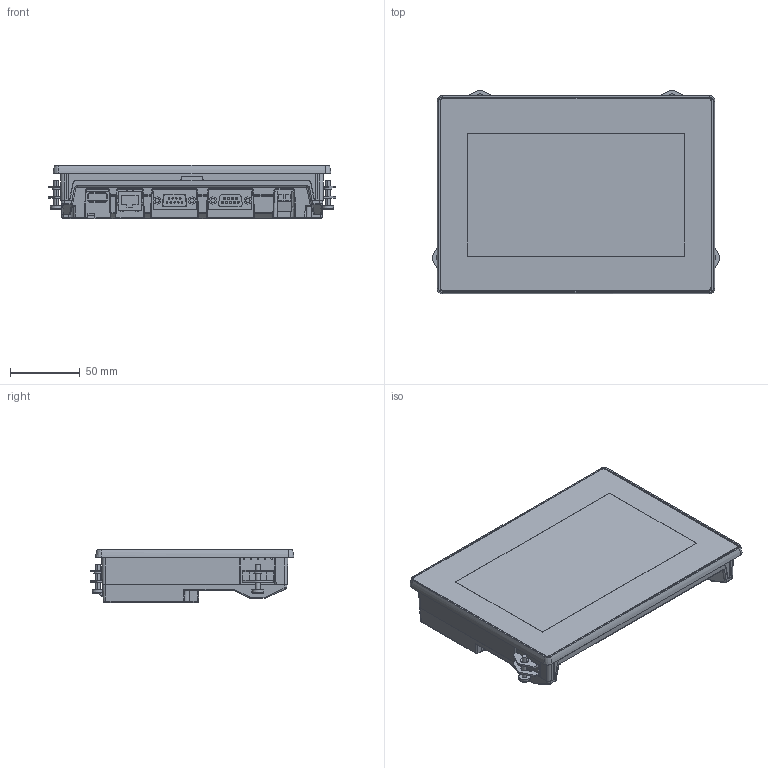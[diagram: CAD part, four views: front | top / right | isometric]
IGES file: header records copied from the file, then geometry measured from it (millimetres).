
Start section:  PTC IGES file: ts1070si_3d-data.igs
Global section: file name: ts1070si_3d-data.igs; native system: Pro/ENGINEER by Parametric Technology Corporation; preprocessor: 2011490; author: oda; organization: Unknown; date: 20180724.152431; units: millimetre
Bounding box: 205.5 x 145.8 x 38 mm (x, y, z)
Surface area: 95862.8 mm2 (no closed solid volume)
Topology: 0 solids, 0 shells, 1361 faces, 6890 edges, 6890 vertices
Faces by surface type: bspline 858, revolution 503
